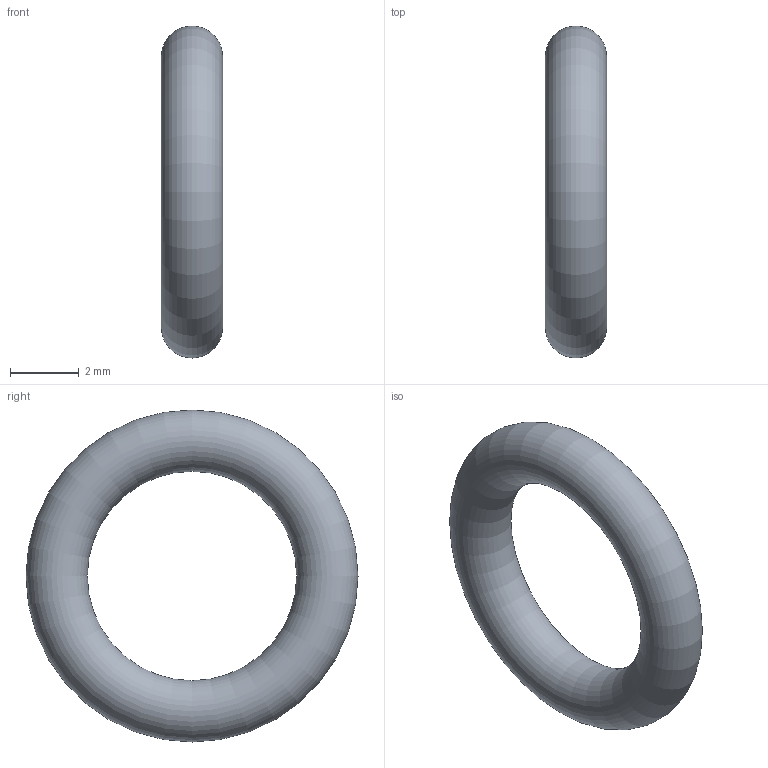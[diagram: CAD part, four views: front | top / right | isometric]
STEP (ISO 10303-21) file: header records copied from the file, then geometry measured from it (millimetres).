
FILE_DESCRIPTION(('Open CASCADE Model'),'2;1');
FILE_NAME('Open CASCADE Shape Model','2026-10-31T23:30:59',('Author'),( 'Open CASCADE'),'Open CASCADE STEP processor 7.9','Open CASCADE 7.9' ,'Unknown');
FILE_SCHEMA(('AUTOMOTIVE_DESIGN { 1 0 10303 214 1 1 1 1 }'));
Length unit declared in the file: millimetre
Products named in the file (1): Open CASCADE STEP translator 7.9 13
Bounding box: 1.78 x 9.64 x 9.64 mm (x, y, z)
Volume: 61.4 mm3; surface area: 138.1 mm2
Topology: 1 solids, 1 shells, 1 faces, 2 edges, 1 vertices
Faces by surface type: torus 1
Entity records: 70 total; most frequent: DIRECTION 12, CARTESIAN_POINT 9, AXIS2_PLACEMENT_3D 4, ORIENTED_EDGE 4, PCURVE 4, DEFINITIONAL_REPRESENTATION 4, LINE 4, VECTOR 4
